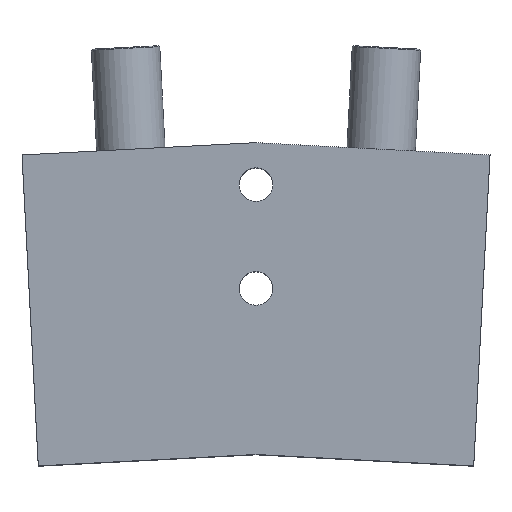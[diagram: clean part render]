
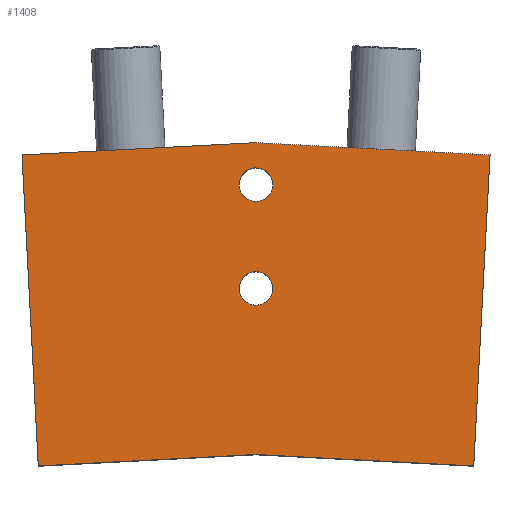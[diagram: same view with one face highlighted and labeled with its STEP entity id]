
A CAD part, top view. The second image highlights one B-rep face of the part: STEP entity #1408.
In plain terms, the highlighted planar face has unit normal (0, 0, 1).
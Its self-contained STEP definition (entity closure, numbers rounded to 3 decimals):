
#960=CARTESIAN_POINT('',(1.621,26.0,20.0));
#961=VERTEX_POINT('',#960);
#962=CARTESIAN_POINT('',(0.,26.0,20.0));
#963=DIRECTION('',(0.0,0.0,-1.0));
#964=DIRECTION('',(1.0,0.0,0.0));
#965=AXIS2_PLACEMENT_3D('',#962,#963,#964);
#966=CIRCLE('',#965,1.621);
#967=EDGE_CURVE('',#961,#961,#966,.T.);
#1009=CARTESIAN_POINT('',(1.621,16.0,20.0));
#1010=VERTEX_POINT('',#1009);
#1011=CARTESIAN_POINT('',(0.,16.0,20.0));
#1012=DIRECTION('',(0.0,0.0,-1.0));
#1013=DIRECTION('',(1.0,0.0,0.0));
#1014=AXIS2_PLACEMENT_3D('',#1011,#1012,#1013);
#1015=CIRCLE('',#1014,1.621);
#1016=EDGE_CURVE('',#1010,#1010,#1015,.T.);
#1190=CARTESIAN_POINT('',(0.,30.041,20.0));
#1191=VERTEX_POINT('',#1190);
#1192=CARTESIAN_POINT('',(22.541,28.86,20.0));
#1193=VERTEX_POINT('',#1192);
#1194=CARTESIAN_POINT('',(0.,30.041,20.0));
#1195=DIRECTION('',(0.999,-0.052,0.0));
#1196=VECTOR('',#1195,22.572);
#1197=LINE('',#1194,#1196);
#1198=EDGE_CURVE('',#1191,#1193,#1197,.T.);
#1233=CARTESIAN_POINT('',(20.971,-1.099,20.0));
#1234=VERTEX_POINT('',#1233);
#1235=CARTESIAN_POINT('',(22.541,28.86,20.0));
#1236=DIRECTION('',(-0.052,-0.999,0.0));
#1237=VECTOR('',#1236,30.);
#1238=LINE('',#1235,#1237);
#1239=EDGE_CURVE('',#1193,#1234,#1238,.T.);
#1267=CARTESIAN_POINT('',(0.0,0.0,20.0));
#1268=VERTEX_POINT('',#1267);
#1269=CARTESIAN_POINT('',(20.971,-1.099,20.0));
#1270=DIRECTION('',(-0.999,0.052,0.0));
#1271=VECTOR('',#1270,21.);
#1272=LINE('',#1269,#1271);
#1273=EDGE_CURVE('',#1234,#1268,#1272,.T.);
#1301=CARTESIAN_POINT('',(-20.971,-1.099,20.0));
#1302=VERTEX_POINT('',#1301);
#1303=CARTESIAN_POINT('',(-22.541,28.86,20.0));
#1304=VERTEX_POINT('',#1303);
#1305=CARTESIAN_POINT('',(-20.971,-1.099,20.0));
#1306=DIRECTION('',(-0.052,0.999,0.0));
#1307=VECTOR('',#1306,30.);
#1308=LINE('',#1305,#1307);
#1309=EDGE_CURVE('',#1302,#1304,#1308,.T.);
#1344=CARTESIAN_POINT('',(-22.541,28.86,20.0));
#1345=DIRECTION('',(0.999,0.052,0.0));
#1346=VECTOR('',#1345,22.572);
#1347=LINE('',#1344,#1346);
#1348=EDGE_CURVE('',#1304,#1191,#1347,.T.);
#1369=CARTESIAN_POINT('',(0.0,0.0,20.0));
#1370=DIRECTION('',(-0.999,-0.052,0.0));
#1371=VECTOR('',#1370,21.);
#1372=LINE('',#1369,#1371);
#1373=EDGE_CURVE('',#1268,#1302,#1372,.T.);
#1389=CARTESIAN_POINT('',(-10.88,14.678,20.0));
#1390=DIRECTION('',(0.0,0.0,1.0));
#1391=DIRECTION('',(1.0,0.0,0.0));
#1392=AXIS2_PLACEMENT_3D('',#1389,#1390,#1391);
#1393=PLANE('',#1392);
#1394=ORIENTED_EDGE('',*,*,#1309,.F.);
#1395=ORIENTED_EDGE('',*,*,#1373,.F.);
#1396=ORIENTED_EDGE('',*,*,#1273,.F.);
#1397=ORIENTED_EDGE('',*,*,#1239,.F.);
#1398=ORIENTED_EDGE('',*,*,#1198,.F.);
#1399=ORIENTED_EDGE('',*,*,#1348,.F.);
#1400=EDGE_LOOP('',(#1394,#1395,#1396,#1397,#1398,#1399));
#1401=FACE_OUTER_BOUND('',#1400,.T.);
#1402=ORIENTED_EDGE('',*,*,#967,.T.);
#1403=EDGE_LOOP('',(#1402));
#1404=FACE_BOUND('',#1403,.T.);
#1405=ORIENTED_EDGE('',*,*,#1016,.T.);
#1406=EDGE_LOOP('',(#1405));
#1407=FACE_BOUND('',#1406,.T.);
#1408=ADVANCED_FACE('',(#1401,#1404,#1407),#1393,.T.);
